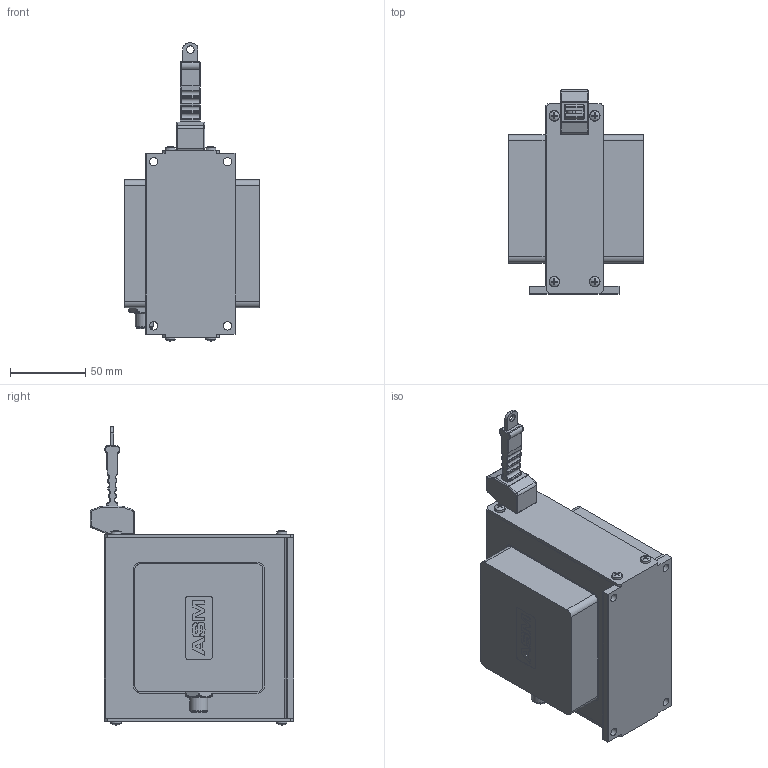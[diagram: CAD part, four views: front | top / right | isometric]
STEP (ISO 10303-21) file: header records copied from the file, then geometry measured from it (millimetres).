
FILE_DESCRIPTION((''),'2;1');
FILE_NAME('C:\Dokumente und Einstellungen\welter\Eigene Dateien\3d Teile\9921090_WB21-10000-(I-U-MSSI-CAN)-M12R_140_A.stp','2013-03-19T16:03:04',('welter'),(''),'Autodesk Inventor 2008','Autodesk Inventor 2008','');
FILE_SCHEMA(('AUTOMOTIVE_DESIGN { 1 0 10303 214 1 1 1 1 }'));
Length unit declared in the file: millimetre
Products named in the file (1): 9921090_WB21-10000-(I-U-MSSI-CAN)-M12R_140_A
Bounding box: 90.1 x 135.2 x 197.88 mm (x, y, z)
Volume: 996685.3 mm3; surface area: 78579.7 mm2
Topology: 5 solids, 5 shells, 590 faces, 1473 edges, 910 vertices
Faces by surface type: plane 294, cylinder 141, bspline 87, sphere 47, cone 12, torus 9
Full cylindrical faces by diameter (mm): 1 x5, 5 x1, 5.5 x4, 8 x3, 8.3 x1, 9.5 x1, 9.55 x1, 10.4 x1, 12 x1
Entity records: 20610 total; most frequent: CARTESIAN_POINT 6505, DIRECTION 2801, ORIENTED_EDGE 2796, EDGE_CURVE 1398, AXIS2_PLACEMENT_3D 1028, VERTEX_POINT 881, VECTOR 745, LINE 745
